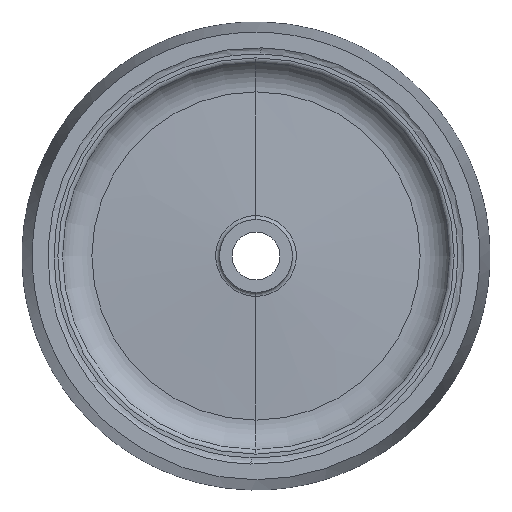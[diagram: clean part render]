
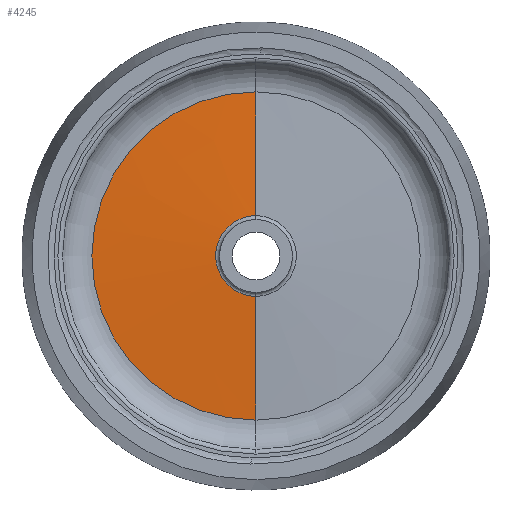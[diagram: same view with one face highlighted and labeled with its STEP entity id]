
A CAD part, front view. The second image highlights one B-rep face of the part: STEP entity #4245.
In plain terms, the highlighted conical face has half-angle 87.101 degrees and reference radius 37.656 mm.
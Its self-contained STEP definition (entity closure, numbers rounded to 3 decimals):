
#79 = CARTESIAN_POINT ( 'NONE',  ( -0.004, -99.168, -0.018 ) ) ;
#490 = LINE ( 'NONE', #1758, #2257 ) ;
#560 = CARTESIAN_POINT ( 'NONE',  ( -0.004, -105.251, 37.638 ) ) ;
#698 = EDGE_CURVE ( 'NONE', #4093, #3808, #837, .T. ) ;
#707 = ORIENTED_EDGE ( 'NONE', *, *, #698, .T. ) ;
#727 = ORIENTED_EDGE ( 'NONE', *, *, #1861, .T. ) ;
#783 = DIRECTION ( 'NONE',  ( 0., 0., -1. ) ) ;
#812 = VERTEX_POINT ( 'NONE', #1752 ) ;
#837 = CIRCLE ( 'NONE', #2579, 38.831 ) ;
#857 = LINE ( 'NONE', #560, #2855 ) ;
#866 = VERTEX_POINT ( 'NONE', #4172 ) ;
#1017 = DIRECTION ( 'NONE',  ( 0., -1., 0. ) ) ;
#1110 = AXIS2_PLACEMENT_3D ( 'NONE', #79, #1017, #2021 ) ;
#1322 = ORIENTED_EDGE ( 'NONE', *, *, #3930, .F. ) ;
#1543 = CIRCLE ( 'NONE', #1110, 157.795 ) ;
#1561 = CONICAL_SURFACE ( 'NONE', #3014, 37.656, 1.52 ) ;
#1630 = CARTESIAN_POINT ( 'NONE',  ( -0.004, -105.191, -0.018 ) ) ;
#1752 = CARTESIAN_POINT ( 'NONE',  ( -0.004, -99.168, 157.777 ) ) ;
#1758 = CARTESIAN_POINT ( 'NONE',  ( -0.004, -105.251, -37.674 ) ) ;
#1812 = CARTESIAN_POINT ( 'NONE',  ( -0.004, -105.191, -38.849 ) ) ;
#1861 = EDGE_CURVE ( 'NONE', #3808, #812, #857, .T. ) ;
#2000 = EDGE_CURVE ( 'NONE', #812, #866, #1543, .T. ) ;
#2021 = DIRECTION ( 'NONE',  ( 0., 0., -1. ) ) ;
#2105 = DIRECTION ( 'NONE',  ( 0., 0.051, -0.999 ) ) ;
#2257 = VECTOR ( 'NONE', #2105, 1000. ) ;
#2364 = EDGE_LOOP ( 'NONE', ( #1322, #707, #727, #2730 ) ) ;
#2579 = AXIS2_PLACEMENT_3D ( 'NONE', #1630, #3053, #783 ) ;
#2730 = ORIENTED_EDGE ( 'NONE', *, *, #2000, .T. ) ;
#2788 = DIRECTION ( 'NONE',  ( 0., 0., 1. ) ) ;
#2815 = CARTESIAN_POINT ( 'NONE',  ( -0.004, -105.251, -0.018 ) ) ;
#2855 = VECTOR ( 'NONE', #2908, 1000. ) ;
#2908 = DIRECTION ( 'NONE',  ( 0., 0.051, 0.999 ) ) ;
#3014 = AXIS2_PLACEMENT_3D ( 'NONE', #2815, #3831, #2788 ) ;
#3053 = DIRECTION ( 'NONE',  ( 0., 1., 0. ) ) ;
#3513 = CARTESIAN_POINT ( 'NONE',  ( -0.004, -105.191, 38.813 ) ) ;
#3807 = FACE_OUTER_BOUND ( 'NONE', #2364, .T. ) ;
#3808 = VERTEX_POINT ( 'NONE', #3513 ) ;
#3831 = DIRECTION ( 'NONE',  ( 0., 1., 0. ) ) ;
#3930 = EDGE_CURVE ( 'NONE', #4093, #866, #490, .T. ) ;
#4093 = VERTEX_POINT ( 'NONE', #1812 ) ;
#4172 = CARTESIAN_POINT ( 'NONE',  ( -0.004, -99.168, -157.813 ) ) ;
#4245 = ADVANCED_FACE ( 'NONE', ( #3807 ), #1561, .T. ) ;
